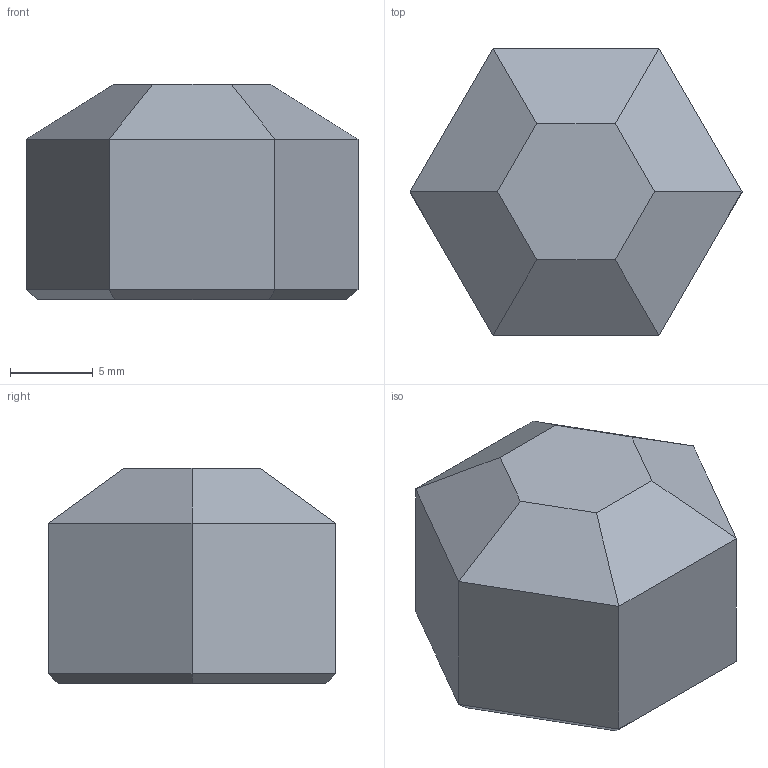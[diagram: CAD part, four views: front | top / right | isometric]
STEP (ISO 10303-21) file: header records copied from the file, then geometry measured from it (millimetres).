
FILE_DESCRIPTION(/* description */ (''),/* implementation_level */ '2;1');
FILE_NAME(/* name */ 'hnefatafl_warrior',/* time_stamp */ '2024-08-03T13:45:47+02:00',/* author */ (''),/* organization */ (''),/* preprocessor_version */ 'ST-DEVELOPER v19.2',/* originating_system */ 'Rhino 8.11',/* authorisation */ '');
FILE_SCHEMA (('CONFIG_CONTROL_DESIGN'));
Length unit declared in the file: millimetre
Products named in the file (1): Document
Bounding box: 20.07 x 17.38 x 13 mm (x, y, z)
Volume: 3013.9 mm3; surface area: 1132.3 mm2
Topology: 1 solids, 1 shells, 20 faces, 42 edges, 24 vertices
Faces by surface type: plane 20
Entity records: 594 total; most frequent: CARTESIAN_POINT 190, ORIENTED_EDGE 84, EDGE_CURVE 42, B_SPLINE_CURVE_WITH_KNOTS 42, VERTEX_POINT 24, DIRECTION 24, AXIS2_PLACEMENT_3D 22, ADVANCED_FACE 20
